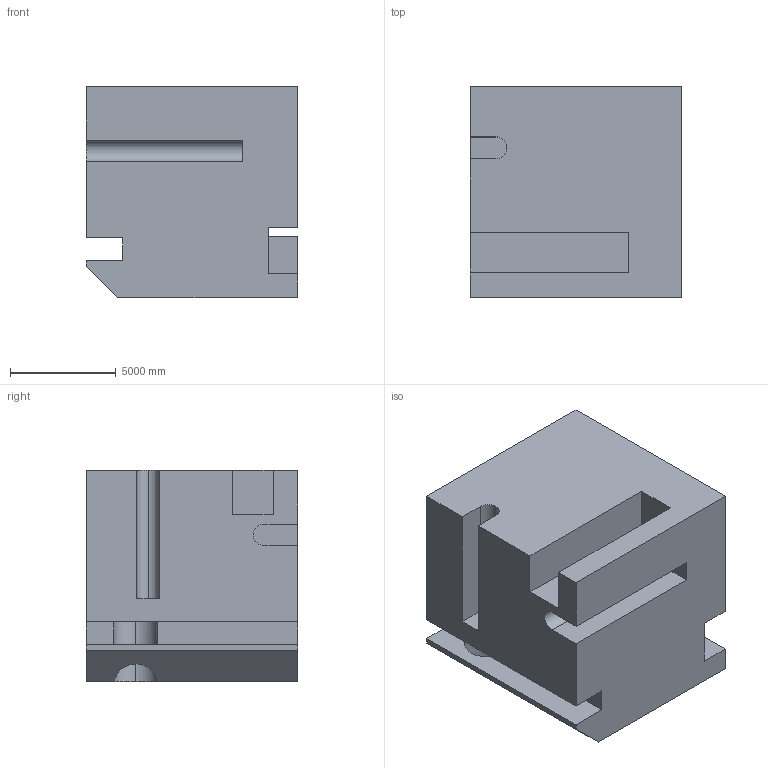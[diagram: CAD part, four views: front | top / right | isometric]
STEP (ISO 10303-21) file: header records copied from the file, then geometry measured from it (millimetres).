
FILE_DESCRIPTION (( 'STEP AP203' ), '1' );
FILE_NAME ('1979.STEP', '2022-08-23T10:12:30', ( 'user' ), ( '' ), 'SwSTEP 2.0', 'SolidWorks 2021', '' );
FILE_SCHEMA (( 'CONFIG_CONTROL_DESIGN' ));
Length unit declared in the file: centimetre
Products named in the file (1): 1979
Bounding box: 10000 x 10000 x 10000 mm (x, y, z)
Volume: 848450842864.9 mm3; surface area: 790542782.9 mm2
Topology: 1 solids, 1 shells, 46 faces, 129 edges, 86 vertices
Faces by surface type: plane 34, cylinder 12
Entity records: 1563 total; most frequent: CARTESIAN_POINT 268, ORIENTED_EDGE 258, DIRECTION 250, EDGE_CURVE 129, LINE 98, VECTOR 98, VERTEX_POINT 86, AXIS2_PLACEMENT_3D 76
